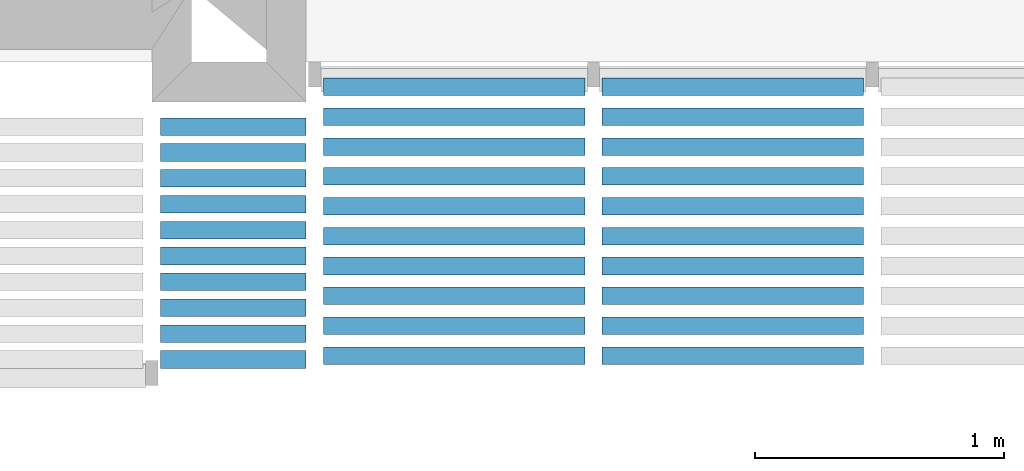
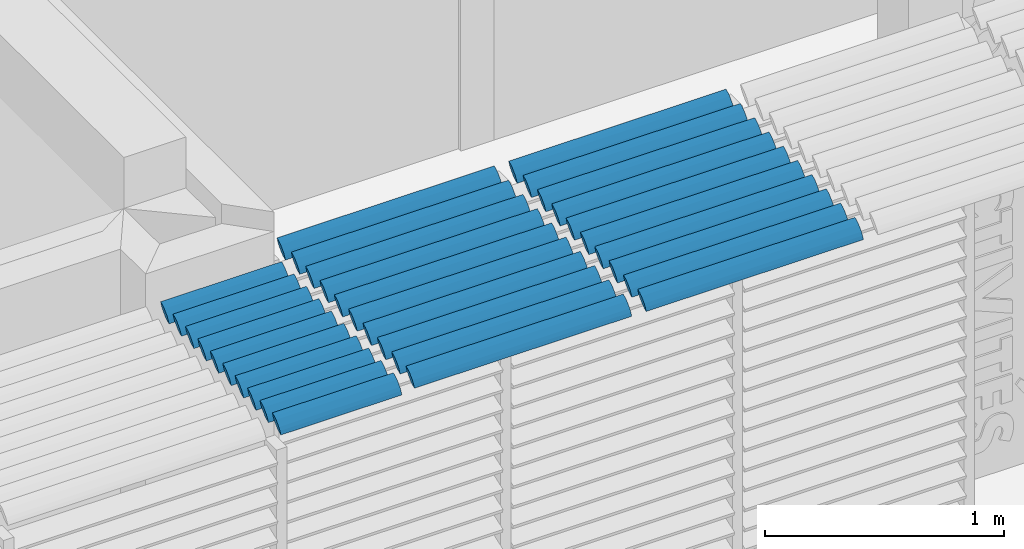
# One storey, part 33 of 64: 3 discrete accessories.
"""IFC2X3 building model written with IfcOpenShell, lengths in metres."""

from ifc_helpers import new_model, entity, si_unit, converted_unit, derived_unit, direction, frame, origin, place, context, subcontext, project, spatial, polyline, outline, extrude, source, transform, mapped, material, type_object, type_shapes, element, save


model = new_model("IFC2X3")

# Units and contexts
model_context = context("Model", 3, precision=1e-05, world=origin(), true_north=direction((6.123031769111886e-17, 1.0)))
body_context = subcontext(model_context, "Body", "Model", "MODEL_VIEW")
ifc_project = project(units=[si_unit("LENGTHUNIT", "METRE"), si_unit("AREAUNIT", "SQUARE_METRE"), si_unit("VOLUMEUNIT", "CUBIC_METRE"), converted_unit("PLANEANGLEUNIT", "DEGREE", entity("IfcRatioMeasure", 0.017453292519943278), si_unit("PLANEANGLEUNIT", "RADIAN"), dimensions=[0, 0, 0, 0, 0, 0, 0]), si_unit("MASSUNIT", "GRAM", prefix="KILO"), derived_unit("MASSDENSITYUNIT", [(si_unit("MASSUNIT", "GRAM", prefix="KILO"), 1), (si_unit("LENGTHUNIT", "METRE"), -3)]), derived_unit("MOMENTOFINERTIAUNIT", [(si_unit("LENGTHUNIT", "METRE"), 4)]), si_unit("TIMEUNIT", "SECOND"), si_unit("FREQUENCYUNIT", "HERTZ"), si_unit("THERMODYNAMICTEMPERATUREUNIT", "DEGREE_CELSIUS"), derived_unit("THERMALTRANSMITTANCEUNIT", [(si_unit("MASSUNIT", "GRAM", prefix="KILO"), 1), (si_unit("THERMODYNAMICTEMPERATUREUNIT", "KELVIN"), -1), (si_unit("TIMEUNIT", "SECOND"), -3)]), derived_unit("THERMALCONDUCTANCEUNIT", [(si_unit("MASSUNIT", "GRAM", prefix="KILO"), 1), (si_unit("LENGTHUNIT", "METRE"), 1), (si_unit("THERMODYNAMICTEMPERATUREUNIT", "KELVIN"), -1), (si_unit("TIMEUNIT", "SECOND"), -3)]), derived_unit("VOLUMETRICFLOWRATEUNIT", [(si_unit("LENGTHUNIT", "METRE"), 3), (si_unit("TIMEUNIT", "SECOND"), -1)]), derived_unit("MASSFLOWRATEUNIT", [(si_unit("MASSUNIT", "GRAM", prefix="KILO"), 1), (si_unit("TIMEUNIT", "SECOND"), -1)]), derived_unit("ROTATIONALFREQUENCYUNIT", [(si_unit("TIMEUNIT", "SECOND"), -1)]), si_unit("ELECTRICCURRENTUNIT", "AMPERE"), si_unit("ELECTRICVOLTAGEUNIT", "VOLT"), si_unit("POWERUNIT", "WATT"), si_unit("FORCEUNIT", "NEWTON", prefix="KILO"), si_unit("ILLUMINANCEUNIT", "LUX"), si_unit("LUMINOUSFLUXUNIT", "LUMEN"), si_unit("LUMINOUSINTENSITYUNIT", "CANDELA"), derived_unit("USERDEFINED", [(si_unit("MASSUNIT", "GRAM", prefix="KILO"), -1), (si_unit("LENGTHUNIT", "METRE"), -2), (si_unit("TIMEUNIT", "SECOND"), 3), (si_unit("LUMINOUSFLUXUNIT", "LUMEN"), 1)]), derived_unit("USERDEFINED", [(si_unit("MASSUNIT", "GRAM", prefix="KILO"), 1), (si_unit("LENGTHUNIT", "METRE"), 3), (si_unit("TIMEUNIT", "SECOND"), -3), (si_unit("ELECTRICCURRENTUNIT", "AMPERE"), -2)]), derived_unit("USERDEFINED", [(si_unit("LENGTHUNIT", "METRE"), 2), (si_unit("TIMEUNIT", "SECOND"), -2)]), derived_unit("SOUNDPOWERUNIT", [(si_unit("MASSUNIT", "GRAM", prefix="KILO"), 1), (si_unit("LENGTHUNIT", "METRE"), 2), (si_unit("TIMEUNIT", "SECOND"), -3)]), derived_unit("SOUNDPRESSUREUNIT", [(si_unit("MASSUNIT", "GRAM", prefix="KILO"), 1), (si_unit("LENGTHUNIT", "METRE"), -1), (si_unit("TIMEUNIT", "SECOND"), -2)]), derived_unit("LINEARVELOCITYUNIT", [(si_unit("LENGTHUNIT", "METRE"), 1), (si_unit("TIMEUNIT", "SECOND"), -1)]), si_unit("PRESSUREUNIT", "PASCAL"), derived_unit("USERDEFINED", [(si_unit("LENGTHUNIT", "METRE"), -2), (si_unit("MASSUNIT", "GRAM", prefix="KILO"), 1), (si_unit("TIMEUNIT", "SECOND"), -2)]), derived_unit("LINEARFORCEUNIT", [(si_unit("MASSUNIT", "GRAM", prefix="KILO"), 1), (si_unit("LENGTHUNIT", "METRE"), 1), (si_unit("TIMEUNIT", "SECOND"), -2), (si_unit("LENGTHUNIT", "METRE"), -1)]), derived_unit("PLANARFORCEUNIT", [(si_unit("MASSUNIT", "GRAM", prefix="KILO"), 1), (si_unit("LENGTHUNIT", "METRE"), 1), (si_unit("TIMEUNIT", "SECOND"), -2), (si_unit("LENGTHUNIT", "METRE"), -2)]), derived_unit("SPECIFICHEATCAPACITYUNIT", [(si_unit("LENGTHUNIT", "METRE"), 2), (si_unit("TIMEUNIT", "SECOND"), -2), (si_unit("THERMODYNAMICTEMPERATUREUNIT", "KELVIN"), -1)]), derived_unit("VAPORPERMEABILITYUNIT", [(si_unit("TIMEUNIT", "SECOND"), 1), (si_unit("LENGTHUNIT", "METRE"), -1)]), derived_unit("DYNAMICVISCOSITYUNIT", [(si_unit("MASSUNIT", "GRAM", prefix="KILO"), 1), (si_unit("LENGTHUNIT", "METRE"), -1), (si_unit("TIMEUNIT", "SECOND"), -1)]), derived_unit("THERMALEXPANSIONCOEFFICIENTUNIT", [(si_unit("THERMODYNAMICTEMPERATUREUNIT", "KELVIN"), -1)])], contexts=[model_context])

# Site, building, storey
site_placement = place(None, origin())
site = spatial("IfcSite", under=ifc_project, at=site_placement, Name="Default", CompositionType="ELEMENT")
building_placement = place(site_placement, origin())
building = spatial("IfcBuilding", under=site, at=building_placement, CompositionType="ELEMENT")
storey_placement = place(building_placement, origin())
storey = spatial("IfcBuildingStorey", under=building, at=storey_placement, Name="REZ-DE-CHAUSSÉE", CompositionType="ELEMENT", Elevation=0.0)

# Discrete accessories
ifc_material = material(Name="Bois - Chêne clair")
discrete_accessory_type_1 = type_object("IfcDiscreteAccessoryType", Name="Symb-0003", material=ifc_material)
shared_shape_1 = source(origin(), body_context, "Body", "SweptSolid", [
    extrude(outline(polyline([(-0.04642383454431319, -0.01856953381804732), (-0.02847328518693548, -0.01856953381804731), (-0.011760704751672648, -0.01547461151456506), (0.019188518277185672, -0.003094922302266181), (0.03342516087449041, 0.006189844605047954), (0.04642383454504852, 0.01856953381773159), (0.028473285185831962, 0.018569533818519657), (0.011760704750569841, 0.015474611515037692), (-0.019188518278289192, 0.0030949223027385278), (-0.033425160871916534, -0.006189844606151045), (-0.04642383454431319, -0.01856953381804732)])), frame((116.96575228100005, 3.9072094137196, 2.6500000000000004), z_axis=(1.0, 0.0, 0.0), x_axis=(0.0, 0.9191450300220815, 0.3939192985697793)), (0.0, 0.0, 1.0), 0.5849944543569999),
    extrude(outline(polyline([(-0.0464238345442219, -0.0185695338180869), (-0.028473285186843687, -0.018569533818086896), (-0.011760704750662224, -0.015474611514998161), (0.01918851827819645, -0.003094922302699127), (0.03342516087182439, 0.006189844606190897), (0.04642383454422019, 0.018569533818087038), (0.02847328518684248, 0.01856953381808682), (0.01176070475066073, 0.0154746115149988), (-0.01918851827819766, 0.003094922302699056), (-0.033425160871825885, -0.0061898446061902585), (-0.0464238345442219, -0.0185695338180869)])), frame((116.96575228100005, 3.8032094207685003, 2.6500000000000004), z_axis=(1.0, 0.0, 0.0), x_axis=(0.0, 0.9191450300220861, 0.39391929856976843)), (0.0, 0.0, 1.0), 0.5849944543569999),
    extrude(outline(polyline([(-0.04642383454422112, -0.01856953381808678), (-0.02847328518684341, -0.01856953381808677), (-0.011760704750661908, -0.015474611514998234), (0.01918851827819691, -0.0030949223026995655), (0.03342516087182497, 0.006189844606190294), (0.04642383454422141, 0.01856953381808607), (0.028473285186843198, 0.01856953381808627), (0.011760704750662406, 0.015474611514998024), (-0.019188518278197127, 0.0030949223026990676), (-0.03342516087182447, -0.006189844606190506), (-0.04642383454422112, -0.01856953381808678)])), frame((116.96575228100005, 3.6992094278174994, 2.6500000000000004), z_axis=(1.0, 0.0, 0.0), x_axis=(0.0, 0.9191450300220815, 0.3939192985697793)), (0.0, 0.0, 1.0), 0.5849944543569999),
    extrude(outline(polyline([(-0.046423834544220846, -0.018569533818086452), (-0.028473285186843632, -0.018569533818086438), (-0.011760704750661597, -0.01547461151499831), (0.019188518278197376, -0.003094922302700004), (0.03342516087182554, 0.0061898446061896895), (0.04642383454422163, 0.018569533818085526), (0.028473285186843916, 0.018569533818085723), (0.011760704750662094, 0.015474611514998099), (-0.01918851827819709, 0.0030949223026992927), (-0.033425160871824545, -0.0061898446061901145), (-0.046423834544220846, -0.018569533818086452)])), frame((116.96575228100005, 3.5952094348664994, 2.6500000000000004), z_axis=(1.0, 0.0, 0.0), x_axis=(0.0, 0.9191450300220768, 0.3939192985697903)), (0.0, 0.0, 1.0), 0.5849944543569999),
    extrude(outline(polyline([(-0.046423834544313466, -0.018569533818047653), (-0.028473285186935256, -0.01856953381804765), (-0.011760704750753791, -0.015474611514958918), (0.019188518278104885, -0.0030949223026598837), (0.03342516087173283, 0.006189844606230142), (0.04642383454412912, 0.01856953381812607), (0.028473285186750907, 0.018569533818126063), (0.011760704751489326, 0.015474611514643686), (-0.01918851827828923, 0.0030949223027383), (-0.03342516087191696, -0.006189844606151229), (-0.046423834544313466, -0.018569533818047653)])), frame((116.96575228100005, 3.4912094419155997, 2.6500000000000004), z_axis=(1.0, 0.0, 0.0), x_axis=(0.0, 0.9191450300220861, 0.39391929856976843)), (0.0, 0.0, 1.0), 0.5849944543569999),
    extrude(outline(polyline([(-0.04642383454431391, -0.018569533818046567), (-0.028473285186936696, -0.018569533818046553), (-0.011760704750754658, -0.01547461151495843), (0.019188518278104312, -0.0030949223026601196), (0.03342516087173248, 0.006189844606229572), (0.046423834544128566, 0.018569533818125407), (0.02847328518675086, 0.018569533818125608), (0.011760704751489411, 0.015474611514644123), (-0.019188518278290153, 0.0030949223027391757), (-0.0334251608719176, -0.006189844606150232), (-0.04642383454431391, -0.018569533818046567)])), frame((116.96575228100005, 3.3872094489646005, 2.6500000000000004), z_axis=(1.0, 0.0, 0.0), x_axis=(0.0, 0.9191450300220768, 0.3939192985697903)), (0.0, 0.0, 1.0), 0.5849944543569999),
    extrude(outline(polyline([(-0.04642383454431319, -0.018569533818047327), (-0.02847328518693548, -0.018569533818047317), (-0.011760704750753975, -0.015474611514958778), (0.019188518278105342, -0.0030949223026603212), (0.033425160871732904, 0.006189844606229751), (0.046423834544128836, 0.01856953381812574), (0.02847328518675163, 0.018569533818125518), (0.011760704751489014, 0.015474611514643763), (-0.019188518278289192, 0.0030949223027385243), (-0.033425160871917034, -0.006189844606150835), (-0.04642383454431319, -0.018569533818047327)])), frame((116.96575228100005, 3.2832094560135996, 2.6500000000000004), z_axis=(1.0, 0.0, 0.0), x_axis=(0.0, 0.9191450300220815, 0.3939192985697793)), (0.0, 0.0, 1.0), 0.5849944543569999),
    extrude(outline(polyline([(-0.046423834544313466, -0.018569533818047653), (-0.028473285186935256, -0.01856953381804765), (-0.011760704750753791, -0.015474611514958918), (0.019188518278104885, -0.0030949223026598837), (0.03342516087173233, 0.006189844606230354), (0.04642383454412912, 0.01856953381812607), (0.028473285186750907, 0.018569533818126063), (0.01176070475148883, 0.015474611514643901), (-0.01918851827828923, 0.0030949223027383), (-0.03342516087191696, -0.006189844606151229), (-0.046423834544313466, -0.018569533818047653)])), frame((116.96575228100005, 3.1792094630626, 2.6500000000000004), z_axis=(1.0, 0.0, 0.0), x_axis=(0.0, 0.9191450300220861, 0.39391929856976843)), (0.0, 0.0, 1.0), 0.5849944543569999),
    extrude(outline(polyline([(-0.04642383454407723, -0.01856953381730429), (-0.028473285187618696, -0.01856953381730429), (-0.011760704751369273, -0.015474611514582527), (0.019188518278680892, -0.0030949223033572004), (0.033425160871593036, 0.006189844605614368), (0.046423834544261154, 0.018569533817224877), (0.028473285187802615, 0.018569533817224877), (0.011760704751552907, 0.015474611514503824), (-0.019188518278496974, 0.003094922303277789), (-0.03342516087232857, -0.006189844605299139), (-0.04642383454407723, -0.01856953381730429)])), frame((116.96575228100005, 3.0752094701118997, 2.6500000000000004), z_axis=(1.0, 0.0, 0.0), x_axis=(0.0, 0.9191450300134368, 0.3939192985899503)), (0.0, 0.0, 1.0), 0.5849944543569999),
    extrude(outline(polyline([(-0.046423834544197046, -0.01856953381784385), (-0.02847328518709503, -0.01856953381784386), (-0.011760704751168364, -0.015474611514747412), (0.01918851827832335, -0.003094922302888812), (0.03342516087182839, 0.006189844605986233), (0.04642383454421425, 0.018569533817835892), (0.02847328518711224, 0.0185695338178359), (0.011760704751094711, 0.015474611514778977), (-0.019188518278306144, 0.0030949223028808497), (-0.033425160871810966, -0.006189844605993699), (-0.046423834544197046, -0.01856953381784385)])), frame((116.96575228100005, 2.97120947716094, 2.6500000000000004), z_axis=(1.0, 0.0, 0.0), x_axis=(0.0, 0.9191450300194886, 0.3939192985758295)), (0.0, 0.0, 1.0), 0.5849944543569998),
])
type_shapes(discrete_accessory_type_1, [shared_shape_1])
discrete_accessory_1_placement = place(storey_placement, origin())
element("IfcDiscreteAccessory", 1, at=discrete_accessory_1_placement, inside=storey, type_object=discrete_accessory_type_1, material=ifc_material, Name="Symb-0003 450779:Symb-0003 450779", ObjectType="Symb-0003 450779:Symb-0003 450779", context=body_context, shape_type="MappedRepresentation", body=[
    mapped(shared_shape_1, transform((0.0, 0.0, 0.0), scale=1.0)),
])
discrete_accessory_type_2 = type_object("IfcDiscreteAccessoryType", Name="Symb-0003", material=ifc_material)
shared_shape_2 = source(origin(), body_context, "Body", "SweptSolid", [
    extrude(outline(polyline([(-0.046423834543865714, -0.018569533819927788), (-0.028473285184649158, -0.0185695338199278), (-0.01176070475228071, -0.01547461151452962), (0.019188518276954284, -0.0030949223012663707), (0.033425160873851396, 0.00618984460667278), (0.04642383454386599, 0.01856953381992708), (0.028473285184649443, 0.018569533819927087), (0.011760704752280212, 0.015474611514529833), (-0.019188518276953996, 0.0030949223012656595), (-0.0334251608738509, -0.006189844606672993), (-0.046423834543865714, -0.018569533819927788)])), frame((118.74074673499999, 4.0672094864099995, 2.6500000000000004), z_axis=(1.0, 0.0, 0.0), x_axis=(0.0, 0.9191450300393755, 0.3939192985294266)), (0.0, 0.0, 1.0), 1.0500000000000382),
    extrude(outline(polyline([(-0.04642383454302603, -0.018569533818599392), (-0.02847328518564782, -0.018569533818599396), (-0.011760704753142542, -0.015474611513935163), (0.019188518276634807, -0.0030949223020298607), (0.03342516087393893, 0.0061898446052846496), (0.04642383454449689, 0.018569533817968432), (0.028473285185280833, 0.018569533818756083), (0.011760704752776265, 0.015474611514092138), (-0.019188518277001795, 0.0030949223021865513), (-0.033425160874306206, -0.0061898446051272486), (-0.04642383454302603, -0.018569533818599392)])), frame((118.74074673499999, 3.947209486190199, 2.6500000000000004), z_axis=(1.0, 0.0, 0.0), x_axis=(0.0, 0.9191450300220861, 0.39391929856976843)), (0.0, 0.0, 1.0), 1.0500000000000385),
    extrude(outline(polyline([(-0.04642383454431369, -0.01856953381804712), (-0.028473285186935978, -0.01856953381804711), (-0.011760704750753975, -0.015474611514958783), (0.019188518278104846, -0.003094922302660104), (0.033425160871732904, 0.00618984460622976), (0.046423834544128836, 0.018569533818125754), (0.02847328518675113, 0.01856953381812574), (0.011760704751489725, 0.015474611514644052), (-0.01918851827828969, 0.0030949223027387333), (-0.033425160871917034, -0.006189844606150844), (-0.04642383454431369, -0.01856953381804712)])), frame((118.74074673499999, 3.8272094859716, 2.6500000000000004), z_axis=(1.0, 0.0, 0.0), x_axis=(0.0, 0.9191450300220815, 0.3939192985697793)), (0.0, 0.0, 1.0), 1.0500000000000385),
    extrude(outline(polyline([(-0.04642383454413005, -0.01856953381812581), (-0.028473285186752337, -0.0185695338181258), (-0.01176070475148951, -0.01547461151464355), (0.01918851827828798, -0.0030949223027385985), (0.03342516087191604, 0.006189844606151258), (0.04642383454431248, 0.018569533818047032), (0.028473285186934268, 0.01856953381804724), (0.011760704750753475, 0.015474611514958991), (-0.019188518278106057, 0.0030949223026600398), (-0.033425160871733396, -0.006189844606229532), (-0.04642383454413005, -0.01856953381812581)])), frame((118.74074673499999, 3.7072094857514, 2.6500000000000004), z_axis=(1.0, 0.0, 0.0), x_axis=(0.0, 0.9191450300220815, 0.3939192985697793)), (0.0, 0.0, 1.0), 1.0500000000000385),
    extrude(outline(polyline([(-0.04642383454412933, -0.018569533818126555), (-0.028473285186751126, -0.018569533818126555), (-0.01176070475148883, -0.015474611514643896), (0.019188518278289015, -0.0030949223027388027), (0.033425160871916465, 0.006189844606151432), (0.04642383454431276, 0.018569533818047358), (0.02847328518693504, 0.018569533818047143), (0.011760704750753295, 0.015474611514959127), (-0.019188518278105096, 0.003094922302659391), (-0.03342516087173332, -0.00618984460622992), (-0.04642383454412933, -0.018569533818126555)])), frame((118.74074673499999, 3.5872094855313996, 2.6500000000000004), z_axis=(1.0, 0.0, 0.0), x_axis=(0.0, 0.9191450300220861, 0.39391929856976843)), (0.0, 0.0, 1.0), 1.0500000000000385),
    extrude(outline(polyline([(-0.046423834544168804, -0.018569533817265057), (-0.02847328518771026, -0.018569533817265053), (-0.011760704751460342, -0.015474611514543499), (0.019188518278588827, -0.003094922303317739), (0.03342516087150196, 0.006189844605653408), (0.04642383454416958, 0.01856953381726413), (0.02847328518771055, 0.018569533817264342), (0.01176070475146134, 0.01547461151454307), (-0.019188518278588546, 0.0030949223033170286), (-0.03342516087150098, -0.006189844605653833), (-0.046423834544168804, -0.018569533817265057)])), frame((118.74074673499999, 3.4672094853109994, 2.6500000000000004), z_axis=(1.0, 0.0, 0.0), x_axis=(0.0, 0.9191450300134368, 0.3939192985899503)), (0.0, 0.0, 1.0), 1.0500000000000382),
    extrude(outline(polyline([(-0.046423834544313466, -0.018569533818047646), (-0.028473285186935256, -0.018569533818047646), (-0.011760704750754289, -0.015474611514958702), (0.019188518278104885, -0.003094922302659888), (0.03342516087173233, 0.006189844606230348), (0.04642383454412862, 0.018569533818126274), (0.028473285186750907, 0.01856953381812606), (0.01176070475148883, 0.015474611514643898), (-0.01918851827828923, 0.0030949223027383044), (-0.03342516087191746, -0.006189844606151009), (-0.046423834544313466, -0.018569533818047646)])), frame((118.74074673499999, 3.3472094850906, 2.6500000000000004), z_axis=(1.0, 0.0, 0.0), x_axis=(0.0, 0.9191450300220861, 0.39391929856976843)), (0.0, 0.0, 1.0), 1.0500000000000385),
    extrude(outline(polyline([(-0.04642383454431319, -0.018569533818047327), (-0.02847328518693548, -0.018569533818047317), (-0.011760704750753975, -0.015474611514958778), (0.019188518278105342, -0.0030949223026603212), (0.033425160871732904, 0.006189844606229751), (0.046423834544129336, 0.01856953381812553), (0.02847328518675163, 0.018569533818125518), (0.011760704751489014, 0.015474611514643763), (-0.019188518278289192, 0.0030949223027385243), (-0.033425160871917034, -0.006189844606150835), (-0.04642383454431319, -0.018569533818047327)])), frame((118.74074673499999, 3.2272094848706, 2.6500000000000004), z_axis=(1.0, 0.0, 0.0), x_axis=(0.0, 0.9191450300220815, 0.3939192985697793)), (0.0, 0.0, 1.0), 1.0500000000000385),
    extrude(outline(polyline([(-0.04642383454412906, -0.018569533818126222), (-0.028473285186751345, -0.01856953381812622), (-0.011760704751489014, -0.015474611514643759), (0.01918851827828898, -0.00309492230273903), (0.033425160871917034, 0.006189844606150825), (0.046423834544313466, 0.018569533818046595), (0.028473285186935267, 0.018569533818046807), (0.011760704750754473, 0.015474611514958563), (-0.019188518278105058, 0.003094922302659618), (-0.033425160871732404, -0.006189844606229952), (-0.04642383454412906, -0.018569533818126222)])), frame((118.74074673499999, 3.1072094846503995, 2.6500000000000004), z_axis=(1.0, 0.0, 0.0), x_axis=(0.0, 0.9191450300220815, 0.3939192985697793)), (0.0, 0.0, 1.0), 1.0500000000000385),
    extrude(outline(polyline([(-0.04642383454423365, -0.01856953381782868), (-0.028473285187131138, -0.01856953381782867), (-0.011760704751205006, -0.015474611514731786), (0.01918851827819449, -0.003094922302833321), (0.03342516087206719, 0.0061898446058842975), (0.046423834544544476, 0.01856953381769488), (0.028473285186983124, 0.018569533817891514), (0.011760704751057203, 0.01547461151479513), (-0.01918851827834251, 0.0030949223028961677), (-0.033425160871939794, -0.006189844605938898), (-0.04642383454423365, -0.01856953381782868)])), frame((118.74074673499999, 2.9872094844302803, 2.6500000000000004), z_axis=(1.0, 0.0, 0.0), x_axis=(0.0, 0.9191450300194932, 0.3939192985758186)), (0.0, 0.0, 1.0), 1.0500000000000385),
])
type_shapes(discrete_accessory_type_2, [shared_shape_2])
discrete_accessory_2_placement = place(storey_placement, origin())
element("IfcDiscreteAccessory", 2, at=discrete_accessory_2_placement, inside=storey, type_object=discrete_accessory_type_2, material=ifc_material, Name="Symb-0003 453073:Symb-0003 453073", ObjectType="Symb-0003 453073:Symb-0003 453073", context=body_context, shape_type="MappedRepresentation", body=[
    mapped(shared_shape_2, transform((0.0, 0.0, 0.0), scale=1.0)),
])
discrete_accessory_type_3 = type_object("IfcDiscreteAccessoryType", Name="Symb-0003", material=ifc_material)
shared_shape_3 = source(origin(), body_context, "Body", "SweptSolid", [
    extrude(outline(polyline([(-0.046423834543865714, -0.018569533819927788), (-0.028473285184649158, -0.0185695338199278), (-0.01176070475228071, -0.01547461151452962), (0.019188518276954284, -0.0030949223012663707), (0.033425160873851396, 0.00618984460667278), (0.04642383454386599, 0.01856953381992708), (0.028473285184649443, 0.018569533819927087), (0.011760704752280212, 0.015474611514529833), (-0.019188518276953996, 0.0030949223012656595), (-0.0334251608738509, -0.006189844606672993), (-0.046423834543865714, -0.018569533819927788)])), frame((117.62074673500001, 4.0672094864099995, 2.6500000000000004), z_axis=(1.0, 0.0, 0.0), x_axis=(0.0, 0.9191450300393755, 0.3939192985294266)), (0.0, 0.0, 1.0), 1.0500000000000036),
    extrude(outline(polyline([(-0.04642383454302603, -0.018569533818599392), (-0.02847328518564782, -0.018569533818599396), (-0.011760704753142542, -0.015474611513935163), (0.019188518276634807, -0.0030949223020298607), (0.03342516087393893, 0.0061898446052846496), (0.04642383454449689, 0.018569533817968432), (0.028473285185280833, 0.018569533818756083), (0.011760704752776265, 0.015474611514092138), (-0.019188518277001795, 0.0030949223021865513), (-0.033425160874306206, -0.0061898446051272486), (-0.04642383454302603, -0.018569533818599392)])), frame((117.62074673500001, 3.947209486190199, 2.6500000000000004), z_axis=(1.0, 0.0, 0.0), x_axis=(0.0, 0.9191450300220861, 0.39391929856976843)), (0.0, 0.0, 1.0), 1.0500000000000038),
    extrude(outline(polyline([(-0.04642383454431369, -0.01856953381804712), (-0.028473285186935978, -0.01856953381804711), (-0.011760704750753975, -0.015474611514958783), (0.019188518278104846, -0.003094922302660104), (0.033425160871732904, 0.00618984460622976), (0.046423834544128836, 0.018569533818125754), (0.02847328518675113, 0.01856953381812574), (0.011760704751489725, 0.015474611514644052), (-0.01918851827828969, 0.0030949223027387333), (-0.033425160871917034, -0.006189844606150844), (-0.04642383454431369, -0.01856953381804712)])), frame((117.62074673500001, 3.8272094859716, 2.6500000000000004), z_axis=(1.0, 0.0, 0.0), x_axis=(0.0, 0.9191450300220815, 0.3939192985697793)), (0.0, 0.0, 1.0), 1.0500000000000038),
    extrude(outline(polyline([(-0.04642383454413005, -0.01856953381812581), (-0.028473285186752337, -0.0185695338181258), (-0.01176070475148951, -0.01547461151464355), (0.01918851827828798, -0.0030949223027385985), (0.03342516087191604, 0.006189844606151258), (0.04642383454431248, 0.018569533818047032), (0.028473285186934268, 0.01856953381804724), (0.011760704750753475, 0.015474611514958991), (-0.019188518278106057, 0.0030949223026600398), (-0.033425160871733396, -0.006189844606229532), (-0.04642383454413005, -0.01856953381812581)])), frame((117.62074673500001, 3.7072094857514, 2.6500000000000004), z_axis=(1.0, 0.0, 0.0), x_axis=(0.0, 0.9191450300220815, 0.3939192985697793)), (0.0, 0.0, 1.0), 1.0500000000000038),
    extrude(outline(polyline([(-0.04642383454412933, -0.018569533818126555), (-0.028473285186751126, -0.018569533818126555), (-0.01176070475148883, -0.015474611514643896), (0.019188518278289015, -0.0030949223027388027), (0.033425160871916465, 0.006189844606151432), (0.04642383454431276, 0.018569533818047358), (0.02847328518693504, 0.018569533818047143), (0.011760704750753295, 0.015474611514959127), (-0.019188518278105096, 0.003094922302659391), (-0.03342516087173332, -0.00618984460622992), (-0.04642383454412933, -0.018569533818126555)])), frame((117.62074673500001, 3.5872094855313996, 2.6500000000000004), z_axis=(1.0, 0.0, 0.0), x_axis=(0.0, 0.9191450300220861, 0.39391929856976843)), (0.0, 0.0, 1.0), 1.0500000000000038),
    extrude(outline(polyline([(-0.046423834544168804, -0.018569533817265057), (-0.02847328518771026, -0.018569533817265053), (-0.011760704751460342, -0.015474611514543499), (0.019188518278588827, -0.003094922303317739), (0.03342516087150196, 0.006189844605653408), (0.04642383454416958, 0.01856953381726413), (0.02847328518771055, 0.018569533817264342), (0.01176070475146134, 0.01547461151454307), (-0.019188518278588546, 0.0030949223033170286), (-0.03342516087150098, -0.006189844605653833), (-0.046423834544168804, -0.018569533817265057)])), frame((117.62074673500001, 3.4672094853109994, 2.6500000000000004), z_axis=(1.0, 0.0, 0.0), x_axis=(0.0, 0.9191450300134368, 0.3939192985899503)), (0.0, 0.0, 1.0), 1.0500000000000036),
    extrude(outline(polyline([(-0.046423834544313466, -0.018569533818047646), (-0.028473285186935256, -0.018569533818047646), (-0.011760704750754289, -0.015474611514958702), (0.019188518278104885, -0.003094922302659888), (0.03342516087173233, 0.006189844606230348), (0.04642383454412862, 0.018569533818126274), (0.028473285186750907, 0.01856953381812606), (0.01176070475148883, 0.015474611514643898), (-0.01918851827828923, 0.0030949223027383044), (-0.03342516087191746, -0.006189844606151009), (-0.046423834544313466, -0.018569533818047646)])), frame((117.62074673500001, 3.3472094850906, 2.6500000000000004), z_axis=(1.0, 0.0, 0.0), x_axis=(0.0, 0.9191450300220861, 0.39391929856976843)), (0.0, 0.0, 1.0), 1.0500000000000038),
    extrude(outline(polyline([(-0.04642383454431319, -0.018569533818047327), (-0.02847328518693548, -0.018569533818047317), (-0.011760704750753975, -0.015474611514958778), (0.019188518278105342, -0.0030949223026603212), (0.033425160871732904, 0.006189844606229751), (0.046423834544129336, 0.01856953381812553), (0.02847328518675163, 0.018569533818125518), (0.011760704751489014, 0.015474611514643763), (-0.019188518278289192, 0.0030949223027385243), (-0.033425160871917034, -0.006189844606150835), (-0.04642383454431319, -0.018569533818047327)])), frame((117.62074673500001, 3.2272094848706, 2.6500000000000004), z_axis=(1.0, 0.0, 0.0), x_axis=(0.0, 0.9191450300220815, 0.3939192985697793)), (0.0, 0.0, 1.0), 1.0500000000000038),
    extrude(outline(polyline([(-0.04642383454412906, -0.018569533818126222), (-0.028473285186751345, -0.01856953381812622), (-0.011760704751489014, -0.015474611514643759), (0.01918851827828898, -0.00309492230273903), (0.033425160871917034, 0.006189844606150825), (0.046423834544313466, 0.018569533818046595), (0.028473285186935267, 0.018569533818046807), (0.011760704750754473, 0.015474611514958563), (-0.019188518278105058, 0.003094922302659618), (-0.033425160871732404, -0.006189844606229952), (-0.04642383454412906, -0.018569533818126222)])), frame((117.62074673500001, 3.1072094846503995, 2.6500000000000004), z_axis=(1.0, 0.0, 0.0), x_axis=(0.0, 0.9191450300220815, 0.3939192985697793)), (0.0, 0.0, 1.0), 1.0500000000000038),
    extrude(outline(polyline([(-0.04642383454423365, -0.01856953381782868), (-0.028473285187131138, -0.01856953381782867), (-0.011760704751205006, -0.015474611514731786), (0.01918851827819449, -0.003094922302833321), (0.03342516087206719, 0.0061898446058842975), (0.046423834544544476, 0.01856953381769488), (0.028473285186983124, 0.018569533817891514), (0.011760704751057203, 0.01547461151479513), (-0.01918851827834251, 0.0030949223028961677), (-0.033425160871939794, -0.006189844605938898), (-0.04642383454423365, -0.01856953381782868)])), frame((117.62074673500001, 2.9872094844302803, 2.6500000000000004), z_axis=(1.0, 0.0, 0.0), x_axis=(0.0, 0.9191450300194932, 0.3939192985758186)), (0.0, 0.0, 1.0), 1.0500000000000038),
])
type_shapes(discrete_accessory_type_3, [shared_shape_3])
discrete_accessory_3_placement = place(storey_placement, origin())
element("IfcDiscreteAccessory", 3, at=discrete_accessory_3_placement, inside=storey, type_object=discrete_accessory_type_3, material=ifc_material, Name="Symb-0003 453103:Symb-0003 453103", ObjectType="Symb-0003 453103:Symb-0003 453103", context=body_context, shape_type="MappedRepresentation", body=[
    mapped(shared_shape_3, transform((0.0, 0.0, 0.0), scale=1.0)),
])

save(model, "model.ifc")
